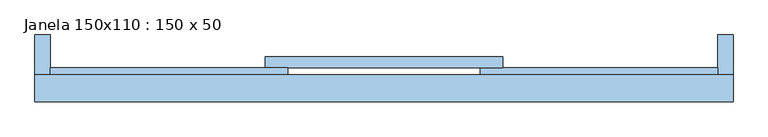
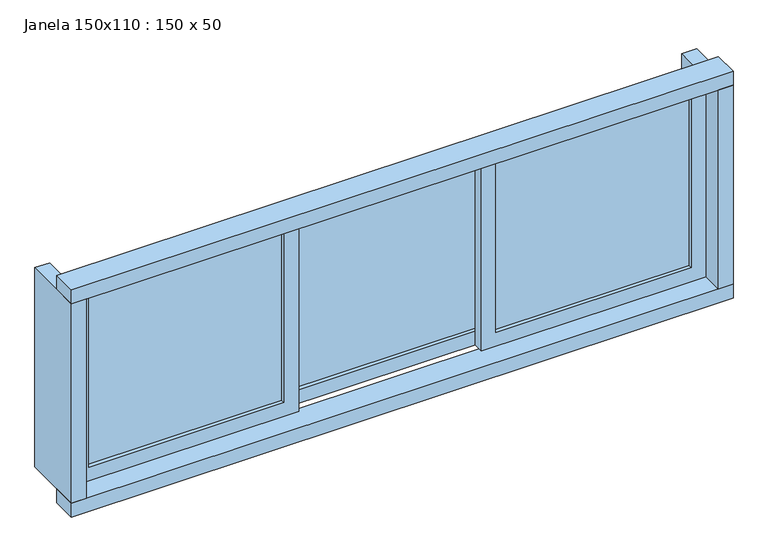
"""IFC4 building model written with IfcOpenShell, lengths in millimetres: window geometry, Janela 150x110 : 150 x 50."""

from ifc_helpers import new_model, si_unit, frame, origin, place, context, project, spatial, polyline, outline, extrude, source, transform, mapped, element, save


def janela_150x110_150_x_50_c6653376(model_context):
    return source(origin(), model_context, "Body", "SweptSolid", [
        extrude(outline(polyline([(-122.320606, -9.5), (-122.320606, -15.5), (-585.650606, -15.5), (-585.650606, -9.5), (-122.320606, -9.5)])), frame((0.0, 0.0, 1035.0), z_axis=(0.0, 0.0, 1.0), x_axis=(1.0, 0.0, 0.0)), (0.0, 0.0, 1.0), 430.0),
        extrude(outline(polyline([(1500.0, -87.320606), (1500.0, -620.650606), (1000.0, -620.650606), (1000.0, -87.320606), (1500.0, -87.320606)]), holes=[polyline([(1465.0, -122.320606), (1035.0, -122.320606), (1035.0, -585.650606), (1465.0, -585.650606), (1465.0, -122.320606)])]), frame((0.0, -25.0, 0.0), z_axis=(0.0, 1.0, 0.0), x_axis=(0.0, 0.0, 1.0)), (0.0, 0.0, 1.0), 25.0),
        extrude(outline(polyline([(-102.2614491, 15.5), (361.0685509, 15.5), (361.0685509, 9.5), (-102.2614491, 9.5), (-102.2614491, 15.5)])), frame((0.0, 0.0, 1035.0), z_axis=(0.0, 0.0, 1.0), x_axis=(1.0, 0.0, 0.0)), (0.0, 0.0, 1.0), 430.0),
        extrude(outline(polyline([(1500.0, -137.2614491), (1000.0, -137.2614491), (1000.0, 396.0685509), (1500.0, 396.0685509), (1500.0, -137.2614491)]), holes=[polyline([(1465.0, -102.2614491), (1465.0, 361.0685509), (1035.0, 361.0685509), (1035.0, -102.2614491), (1465.0, -102.2614491)])]), frame((0.0, 0.0, 0.0), z_axis=(0.0, 1.0, 0.0), x_axis=(0.0, 0.0, 1.0)), (0.0, 0.0, 1.0), 25.0),
        extrude(outline(polyline([(381.1277079, -9.5), (844.4577079, -9.5), (844.4577079, -15.5), (381.1277079, -15.5), (381.1277079, -9.5)])), frame((0.0, 0.0, 1035.0), z_axis=(0.0, 0.0, 1.0), x_axis=(1.0, 0.0, 0.0)), (0.0, 0.0, 1.0), 430.0),
        extrude(outline(polyline([(1500.0, 346.1277079), (1000.0, 346.1277079), (1000.0, 879.4577079), (1500.0, 879.4577079), (1500.0, 346.1277079)]), holes=[polyline([(1465.0, 381.1277079), (1465.0, 844.4577079), (1035.0, 844.4577079), (1035.0, 381.1277079), (1465.0, 381.1277079)])]), frame((0.0, -25.0, 0.0), z_axis=(0.0, 1.0, 0.0), x_axis=(0.0, 0.0, 1.0)), (0.0, 0.0, 1.0), 25.0),
        extrude(outline(polyline([(-655.5964491, 74.1241605), (-620.5964491, 74.1241605), (-620.5964491, -75.8758395), (-655.5964491, -75.8758395), (-655.5964491, 74.1241605)])), frame((0.0, 0.0, 1000.0), z_axis=(0.0, 0.0, 1.0), x_axis=(1.0, 0.0, 0.0)), (0.0, 0.0, 1.0), 500.0),
        extrude(outline(polyline([(879.4035509, 74.1241605), (914.4035509, 74.1241605), (914.4035509, -75.8758395), (879.4035509, -75.8758395), (879.4035509, 74.1241605)])), frame((0.0, 0.0, 1000.0), z_axis=(0.0, 0.0, 1.0), x_axis=(1.0, 0.0, 0.0)), (0.0, 0.0, 1.0), 500.0),
        extrude(outline(polyline([(-655.5964491, -15.8758395), (914.4035509, -15.8758395), (914.4035509, -75.8758395), (-655.5964491, -75.8758395), (-655.5964491, -15.8758395)])), frame((0.0, 0.0, 965.0), z_axis=(0.0, 0.0, 1.0), x_axis=(1.0, 0.0, 0.0)), (0.0, 0.0, 1.0), 35.0),
        extrude(outline(polyline([(-655.5964491, -15.8758395), (914.4035509, -15.8758395), (914.4035509, -75.8758395), (-655.5964491, -75.8758395), (-655.5964491, -15.8758395)])), frame((0.0, 0.0, 1500.0), z_axis=(0.0, 0.0, 1.0), x_axis=(1.0, 0.0, 0.0)), (0.0, 0.0, 1.0), 35.0),
    ])


if __name__ == "__main__":
    model = new_model("IFC4")
    model_context = context("Model", 3, world=origin())
    ifc_project = project(units=[si_unit("LENGTHUNIT", "METRE", prefix="MILLI")], contexts=[model_context])
    site = spatial("IfcSite", under=ifc_project)
    building = spatial("IfcBuilding", under=site)
    placement = place(None, origin())
    janela_150x110_150_x_50_shape = janela_150x110_150_x_50_c6653376(model_context)
    element("IfcWindow", 1, ObjectType="Janela 150x110 : 150 x 50", at=placement, inside=building, context=model_context, shape_type="MappedRepresentation", body=[
        mapped(janela_150x110_150_x_50_shape, transform((0.0, 0.0, 0.0), x_axis=(1.0, 0.0, 0.0), y_axis=(0.0, 1.0, 0.0), z_axis=(0.0, 0.0, 1.0))),
    ])
    save(model, "model.ifc")
